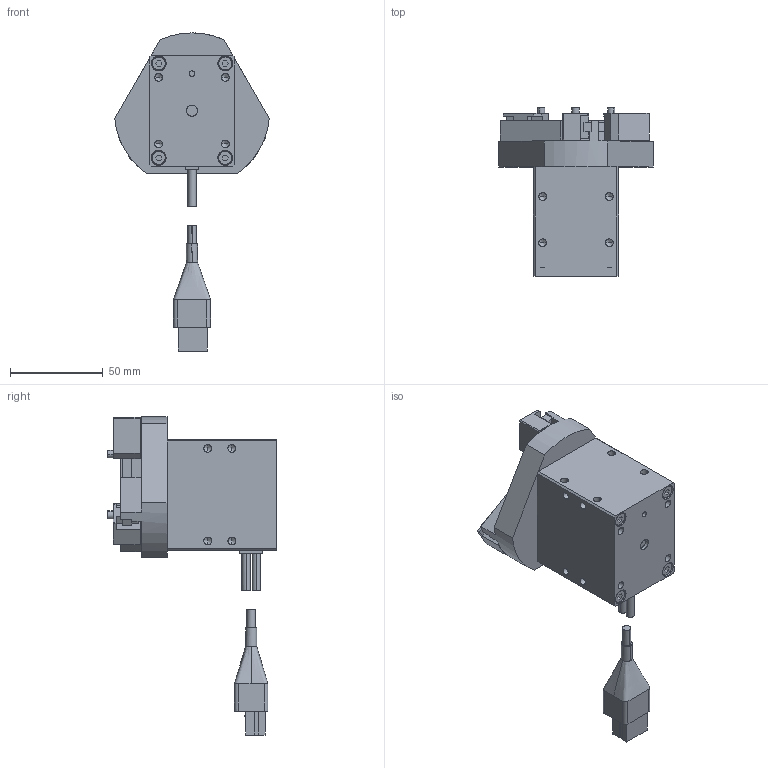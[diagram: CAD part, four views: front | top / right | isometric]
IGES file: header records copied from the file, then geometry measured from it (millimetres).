
Start section: ------------------------------------------------------------------------
Global section: file name: C:\ICADMX\tmp\trans3d_spg\JPN451UTO395W71.6368.ESG1-ST-4230_5238.igs; native system: spGate; preprocessor: ver9.0.61; author: Unknown; organization: Unknown; date: 160112.141425; units: millimetre
Bounding box: 83.55 x 91 x 171.89 mm (x, y, z)
Surface area: 46442.3 mm2 (no closed solid volume)
Topology: 0 solids, 0 shells, 423 faces, 2066 edges, 2020 vertices
Faces by surface type: bspline 423
